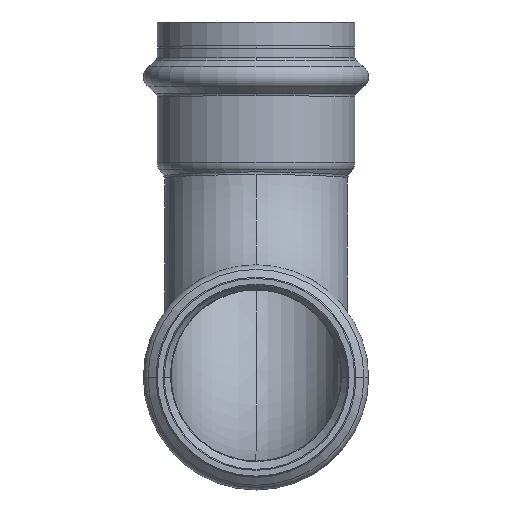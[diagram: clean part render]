
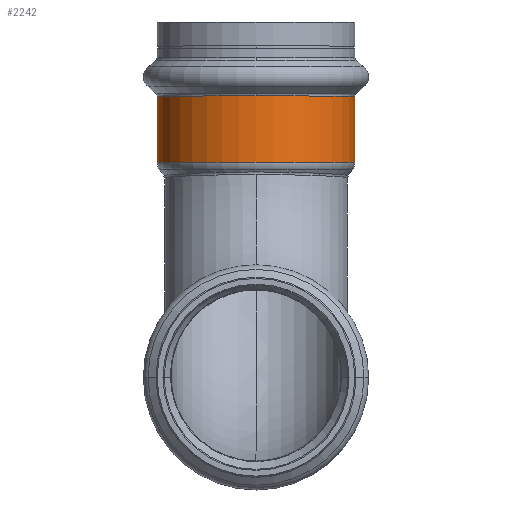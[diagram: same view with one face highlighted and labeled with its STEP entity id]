
A CAD part, top view. The second image highlights one B-rep face of the part: STEP entity #2242.
In plain terms, the highlighted cylindrical face has radius 28.9 mm (diameter 57.8 mm), a partial arc.
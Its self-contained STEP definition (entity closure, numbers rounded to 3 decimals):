
#160 = LINE ( 'NONE', #1306, #335 ) ;
#335 = VECTOR ( 'NONE', #827, 1000. ) ;
#434 = DIRECTION ( 'NONE',  ( 0., -1., 0. ) ) ;
#591 = VECTOR ( 'NONE', #4875, 1000. ) ;
#624 = EDGE_CURVE ( 'NONE', #4303, #4399, #790, .T. ) ;
#768 = CARTESIAN_POINT ( 'NONE',  ( 0., 82.373, 0. ) ) ;
#783 = DIRECTION ( 'NONE',  ( 0., -1., 0. ) ) ;
#790 = CIRCLE ( 'NONE', #1162, 28.9 ) ;
#793 = DIRECTION ( 'NONE',  ( 0., 0., 1. ) ) ;
#827 = DIRECTION ( 'NONE',  ( 0., 1., 0. ) ) ;
#893 = CARTESIAN_POINT ( 'NONE',  ( 28.9, 63., 0. ) ) ;
#1162 = AXIS2_PLACEMENT_3D ( 'NONE', #768, #783, #793 ) ;
#1188 = DIRECTION ( 'NONE',  ( 1., 0., 0. ) ) ;
#1202 = DIRECTION ( 'NONE',  ( 0., 1., 0. ) ) ;
#1284 = CARTESIAN_POINT ( 'NONE',  ( 0., 63., 0. ) ) ;
#1286 = DIRECTION ( 'NONE',  ( 0., -1., 0. ) ) ;
#1305 = DIRECTION ( 'NONE',  ( 1., 0., 0. ) ) ;
#1306 = CARTESIAN_POINT ( 'NONE',  ( 28.9, 62.626, 0. ) ) ;
#1526 = EDGE_CURVE ( 'NONE', #2048, #3021, #3393, .T. ) ;
#1549 = ORIENTED_EDGE ( 'NONE', *, *, #624, .T. ) ;
#1583 = LINE ( 'NONE', #2316, #591 ) ;
#1945 = CARTESIAN_POINT ( 'NONE',  ( 28.9, 82.373, 0. ) ) ;
#2026 = CARTESIAN_POINT ( 'NONE',  ( -28.9, 82.373, 0. ) ) ;
#2048 = VERTEX_POINT ( 'NONE', #893 ) ;
#2192 = FACE_OUTER_BOUND ( 'NONE', #2684, .T. ) ;
#2242 = ADVANCED_FACE ( 'NONE', ( #2192 ), #4125, .T. ) ;
#2316 = CARTESIAN_POINT ( 'NONE',  ( -28.9, 62.626, 0. ) ) ;
#2443 = CARTESIAN_POINT ( 'NONE',  ( 0., 62.626, 0. ) ) ;
#2463 = ORIENTED_EDGE ( 'NONE', *, *, #3752, .T. ) ;
#2523 = CARTESIAN_POINT ( 'NONE',  ( -28.9, 63., 0. ) ) ;
#2537 = VERTEX_POINT ( 'NONE', #2026 ) ;
#2684 = EDGE_LOOP ( 'NONE', ( #2687, #3923, #3215, #1549, #2463 ) ) ;
#2687 = ORIENTED_EDGE ( 'NONE', *, *, #3815, .F. ) ;
#2796 = AXIS2_PLACEMENT_3D ( 'NONE', #2443, #1202, #1188 ) ;
#2807 = CARTESIAN_POINT ( 'NONE',  ( 0., 82.373, 28.9 ) ) ;
#3021 = VERTEX_POINT ( 'NONE', #2523 ) ;
#3044 = CARTESIAN_POINT ( 'NONE',  ( 0., 82.373, 0. ) ) ;
#3215 = ORIENTED_EDGE ( 'NONE', *, *, #3389, .T. ) ;
#3389 = EDGE_CURVE ( 'NONE', #2048, #4303, #160, .T. ) ;
#3393 = CIRCLE ( 'NONE', #4500, 28.9 ) ;
#3434 = DIRECTION ( 'NONE',  ( 0., 0., 1. ) ) ;
#3752 = EDGE_CURVE ( 'NONE', #4399, #2537, #4724, .T. ) ;
#3815 = EDGE_CURVE ( 'NONE', #3021, #2537, #1583, .T. ) ;
#3923 = ORIENTED_EDGE ( 'NONE', *, *, #1526, .F. ) ;
#4125 = CYLINDRICAL_SURFACE ( 'NONE', #2796, 28.9 ) ;
#4303 = VERTEX_POINT ( 'NONE', #1945 ) ;
#4399 = VERTEX_POINT ( 'NONE', #2807 ) ;
#4500 = AXIS2_PLACEMENT_3D ( 'NONE', #1284, #1286, #1305 ) ;
#4654 = AXIS2_PLACEMENT_3D ( 'NONE', #3044, #434, #3434 ) ;
#4724 = CIRCLE ( 'NONE', #4654, 28.9 ) ;
#4875 = DIRECTION ( 'NONE',  ( 0., 1., 0. ) ) ;
